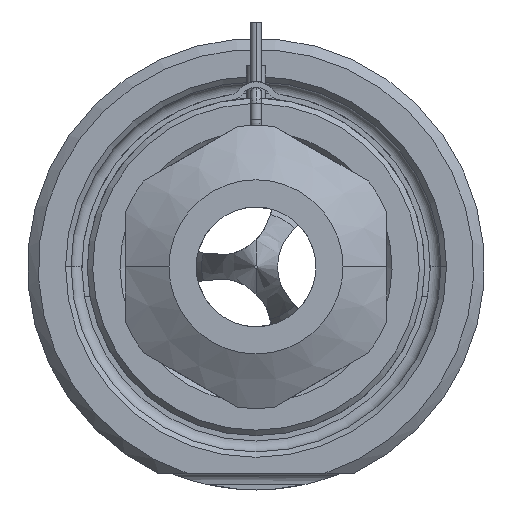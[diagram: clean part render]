
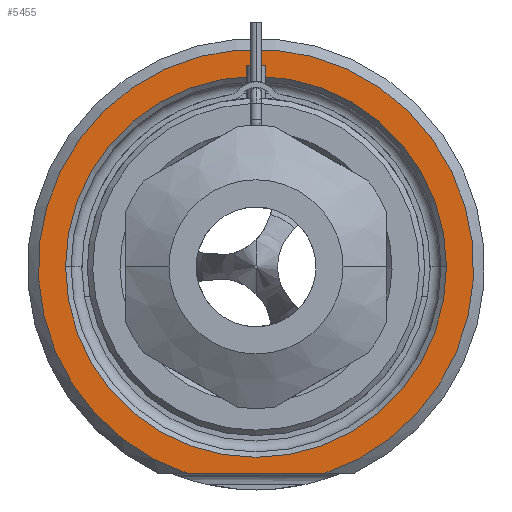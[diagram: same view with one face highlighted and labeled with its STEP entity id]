
A CAD part, front view. The second image highlights one B-rep face of the part: STEP entity #5455.
In plain terms, the highlighted planar face has unit normal (0, -1, 0).
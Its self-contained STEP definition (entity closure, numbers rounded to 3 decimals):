
#1691=DIRECTION('',(1.,0.,0.));
#1692=VECTOR('',#1691,12.49);
#1693=CARTESIAN_POINT('',(-6.245,0.,-19.));
#1694=LINE('',#1693,#1692);
#1695=CARTESIAN_POINT('',(0.,0.,0.));
#1696=DIRECTION('',(0.,1.,0.));
#1697=DIRECTION('',(-1.,0.,0.));
#1698=AXIS2_PLACEMENT_3D('',#1695,#1696,#1697);
#1700=CARTESIAN_POINT('',(0.,0.,0.));
#1701=DIRECTION('',(0.,1.,0.));
#1702=DIRECTION('',(1.,0.,0.));
#1703=AXIS2_PLACEMENT_3D('',#1700,#1701,#1702);
#1809=CARTESIAN_POINT('',(0.,0.,0.));
#1810=DIRECTION('',(0.,-1.,0.));
#1811=DIRECTION('',(0.312,0.,-0.95));
#1812=AXIS2_PLACEMENT_3D('',#1809,#1810,#1811);
#3363=CARTESIAN_POINT('',(-17.5,0.,0.));
#3364=CARTESIAN_POINT('',(17.5,0.,0.));
#3365=VERTEX_POINT('',#3363);
#3366=VERTEX_POINT('',#3364);
#3421=CARTESIAN_POINT('',(-6.245,0.,-19.));
#3422=CARTESIAN_POINT('',(6.245,0.,-19.));
#3423=VERTEX_POINT('',#3421);
#3424=VERTEX_POINT('',#3422);
#5439=CARTESIAN_POINT('',(0.,0.,0.));
#5440=DIRECTION('',(0.,-1.,0.));
#5441=DIRECTION('',(1.,0.,0.));
#5442=AXIS2_PLACEMENT_3D('',#5439,#5440,#5441);
#5443=PLANE('',#5442);
#5445=ORIENTED_EDGE('',*,*,#5444,.F.);
#5447=ORIENTED_EDGE('',*,*,#5446,.F.);
#5448=EDGE_LOOP('',(#5445,#5447));
#5449=FACE_OUTER_BOUND('',#5448,.F.);
#5450=ORIENTED_EDGE('',*,*,#5429,.F.);
#5452=ORIENTED_EDGE('',*,*,#5451,.F.);
#5453=EDGE_LOOP('',(#5450,#5452));
#5454=FACE_BOUND('',#5453,.F.);
#5455=ADVANCED_FACE('',(#5449,#5454),#5443,.T.);
#1699=CIRCLE('',#1698,17.5);
#1704=CIRCLE('',#1703,17.5);
#1813=CIRCLE('',#1812,20.);
#5429=EDGE_CURVE('',#3365,#3366,#1699,.T.);
#5444=EDGE_CURVE('',#3423,#3424,#1694,.T.);
#5446=EDGE_CURVE('',#3424,#3423,#1813,.T.);
#5451=EDGE_CURVE('',#3366,#3365,#1704,.T.);
